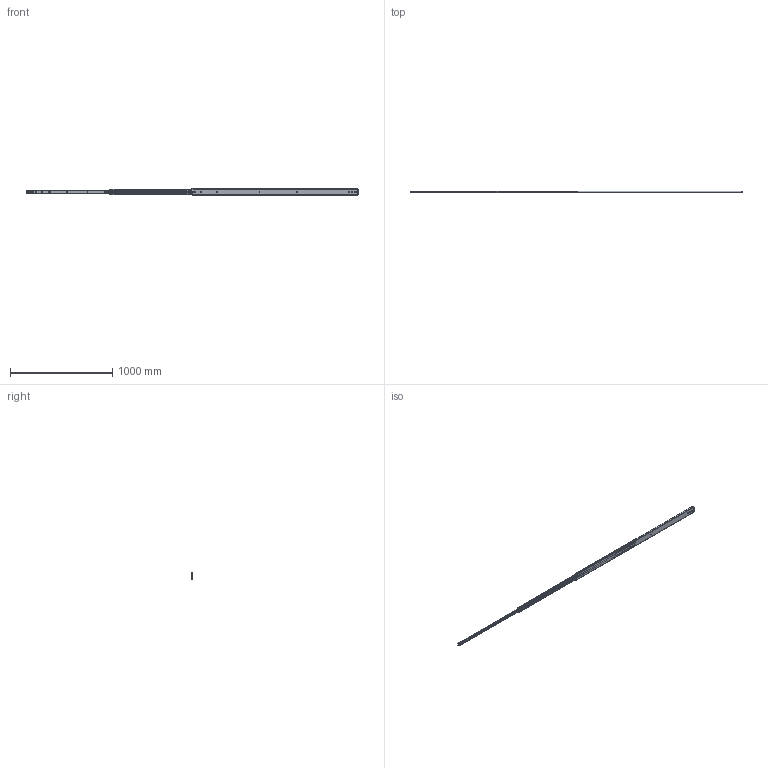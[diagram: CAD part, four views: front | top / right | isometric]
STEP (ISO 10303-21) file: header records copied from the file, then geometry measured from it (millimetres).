
FILE_DESCRIPTION((''),'2;1');
FILE_NAME('DG-76-02-64_ASM','2023-05-15T',('jishu015'),(''),'PRO/ENGINEER BY PARAMETRIC TECHNOLOGY CORPORATION, 2010280','PRO/ENGINEER BY PARAMETRIC TECHNOLOGY CORPORATION, 2010280','');
FILE_SCHEMA(('CONFIG_CONTROL_DESIGN'));
Products named in the file (18): KP-76-04WAIKE3_; 1076-WAIKEZIDANJIAO3_; WAIK72__ASM; 1076XIAOZHUTIAO1_; 163_; 1076XIAOZHUTIAO1__ASM; KP-76-04ZHONGGUI3_; 76CHANGGUIZHONGGUIJIAO3_; 3X6WODIN3_; PJ-76-33_; 76-XIAOZHUJIA3_; GANGZHU-XIAO3_; ZHUJIA-XIAO3__ASM; ZHONGGUI3__ASM; KP-76-04NEIGUI3_; XIN-TANPIAN_; NEIGUI3__ASM; DG-76-02-64_ASM
Assembly tree (110 placements, depth 4):
  DG-76-02-64_ASM
    WAIK72__ASM
      KP-76-04WAIKE3_
      1076-WAIKEZIDANJIAO3_  x2
    1076XIAOZHUTIAO1__ASM  x2
      1076XIAOZHUTIAO1_
      163_
    ZHONGGUI3__ASM
      KP-76-04ZHONGGUI3_
      76CHANGGUIZHONGGUIJIAO3_
      3X6WODIN3_
      PJ-76-33_
      ZHUJIA-XIAO3__ASM
        76-XIAOZHUJIA3_
        GANGZHU-XIAO3_  x62
    NEIGUI3__ASM
      KP-76-04NEIGUI3_
      XIN-TANPIAN_
Bounding box: 3251.2 x 19.5 x 75.3 mm (x, y, z)
Volume: 1067155.2 mm3; surface area: 1023693.3 mm2
Topology: 136 solids, 136 shells, 2704 faces, 8574 edges, 5371 vertices
Faces by surface type: plane 1463, cylinder 876, sphere 250, extrusion 93, cone 18, bspline 4
Entity records: 80106 total; most frequent: CARTESIAN_POINT 19154, ORIENTED_EDGE 13660, DIRECTION 11713, EDGE_CURVE 6830, VERTEX_POINT 4459, AXIS2_PLACEMENT_3D 3961, VECTOR 3791, LINE 3698
